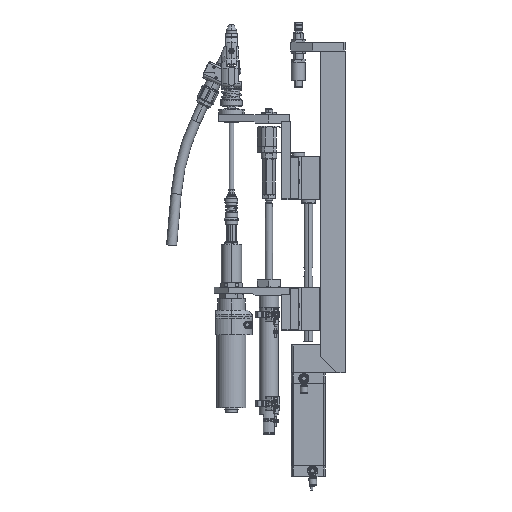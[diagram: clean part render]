
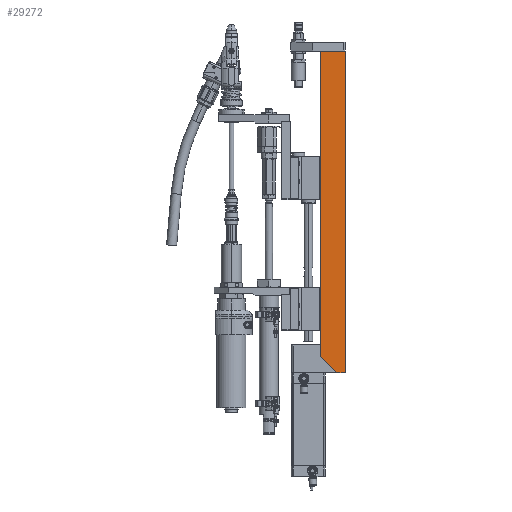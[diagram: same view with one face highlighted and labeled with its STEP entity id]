
A CAD part, left-side view. The second image highlights one B-rep face of the part: STEP entity #29272.
In plain terms, the highlighted planar face has unit normal (-1, 0, 0).
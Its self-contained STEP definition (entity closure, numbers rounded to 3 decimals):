
#146 = CARTESIAN_POINT ( 'NONE',  ( -29., 35., 223. ) ) ;
#1849 = ORIENTED_EDGE ( 'NONE', *, *, #134196, .F. ) ;
#7282 = VERTEX_POINT ( 'NONE', #67070 ) ;
#9103 = VERTEX_POINT ( 'NONE', #111494 ) ;
#11687 = VERTEX_POINT ( 'NONE', #38573 ) ;
#12730 = DIRECTION ( 'NONE',  ( 1., 0., 0. ) ) ;
#20710 = VECTOR ( 'NONE', #39549, 1000. ) ;
#22396 = AXIS2_PLACEMENT_3D ( 'NONE', #146, #12730, #118121 ) ;
#28619 = VERTEX_POINT ( 'NONE', #54206 ) ;
#29272 = ADVANCED_FACE ( 'NONE', ( #53189 ), #64382, .F. ) ;
#30644 = CARTESIAN_POINT ( 'NONE',  ( -29., 35., -223. ) ) ;
#31094 = LINE ( 'NONE', #116890, #20710 ) ;
#31864 = LINE ( 'NONE', #76483, #89340 ) ;
#32892 = DIRECTION ( 'NONE',  ( 0., 0., 1. ) ) ;
#36312 = ORIENTED_EDGE ( 'NONE', *, *, #54051, .F. ) ;
#38573 = CARTESIAN_POINT ( 'NONE',  ( -29., 0., 223. ) ) ;
#39549 = DIRECTION ( 'NONE',  ( 0., 0., 1. ) ) ;
#44612 = VECTOR ( 'NONE', #128323, 1000. ) ;
#47987 = CARTESIAN_POINT ( 'NONE',  ( -29., 12., -223. ) ) ;
#48069 = DIRECTION ( 'NONE',  ( 0., -0.707, -0.707 ) ) ;
#50936 = LINE ( 'NONE', #30644, #44612 ) ;
#53189 = FACE_OUTER_BOUND ( 'NONE', #57892, .T. ) ;
#54051 = EDGE_CURVE ( 'NONE', #9103, #11687, #31864, .T. ) ;
#54206 = CARTESIAN_POINT ( 'NONE',  ( -29., 35., -200. ) ) ;
#57617 = VECTOR ( 'NONE', #32892, 1000. ) ;
#57892 = EDGE_LOOP ( 'NONE', ( #1849, #71501, #110362, #106597, #36312 ) ) ;
#64382 = PLANE ( 'NONE',  #22396 ) ;
#67070 = CARTESIAN_POINT ( 'NONE',  ( -29., 0., -223. ) ) ;
#67382 = EDGE_CURVE ( 'NONE', #114429, #7282, #50936, .T. ) ;
#69006 = CARTESIAN_POINT ( 'NONE',  ( -29., 35., -200. ) ) ;
#69675 = LINE ( 'NONE', #69006, #84416 ) ;
#71501 = ORIENTED_EDGE ( 'NONE', *, *, #135859, .T. ) ;
#74729 = CARTESIAN_POINT ( 'NONE',  ( -29., 35., 223. ) ) ;
#76483 = CARTESIAN_POINT ( 'NONE',  ( -29., 35., 223. ) ) ;
#84416 = VECTOR ( 'NONE', #48069, 1000. ) ;
#89340 = VECTOR ( 'NONE', #130863, 1000. ) ;
#106597 = ORIENTED_EDGE ( 'NONE', *, *, #121652, .T. ) ;
#106829 = LINE ( 'NONE', #74729, #57617 ) ;
#110362 = ORIENTED_EDGE ( 'NONE', *, *, #67382, .T. ) ;
#111494 = CARTESIAN_POINT ( 'NONE',  ( -29., 35., 223. ) ) ;
#114429 = VERTEX_POINT ( 'NONE', #47987 ) ;
#116890 = CARTESIAN_POINT ( 'NONE',  ( -29., 0., 223. ) ) ;
#118121 = DIRECTION ( 'NONE',  ( 0., 0., -1. ) ) ;
#121652 = EDGE_CURVE ( 'NONE', #7282, #11687, #31094, .T. ) ;
#128323 = DIRECTION ( 'NONE',  ( 0., -1., 0. ) ) ;
#130863 = DIRECTION ( 'NONE',  ( 0., -1., 0. ) ) ;
#134196 = EDGE_CURVE ( 'NONE', #28619, #9103, #106829, .T. ) ;
#135859 = EDGE_CURVE ( 'NONE', #28619, #114429, #69675, .T. ) ;
